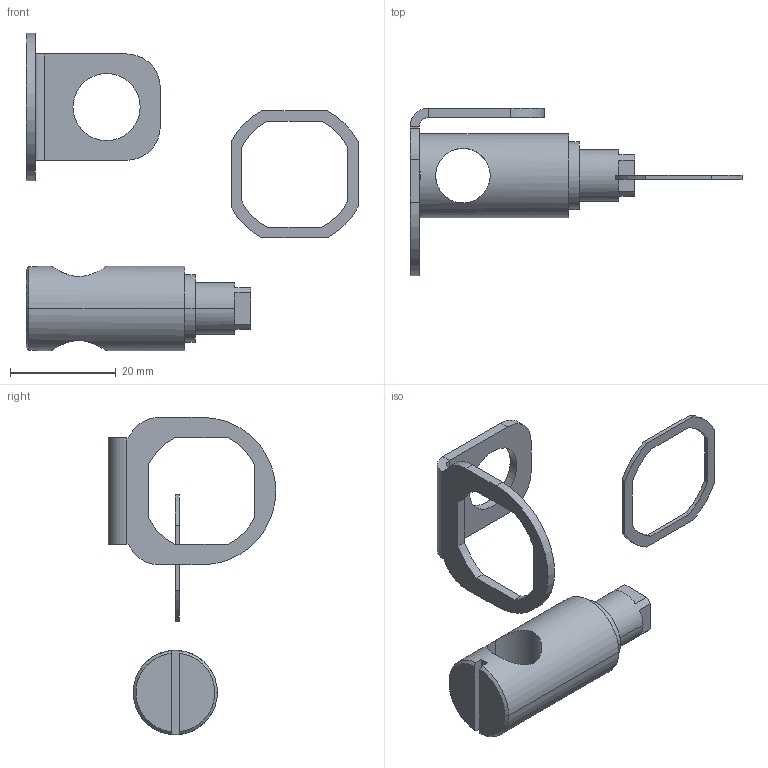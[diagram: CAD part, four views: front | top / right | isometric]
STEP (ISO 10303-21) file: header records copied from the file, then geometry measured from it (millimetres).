
FILE_DESCRIPTION (( 'STEP AP203' ), '1' );
FILE_NAME ('wslpl.STEP', '2020-02-05T14:12:56', ( '' ), ( '' ), 'SwSTEP 2.0', 'SolidWorks 2016', '' );
FILE_SCHEMA (( 'CONFIG_CONTROL_DESIGN' ));
Length unit declared in the file: inch
Products named in the file (4): 87579974; 87579976; 31122001_31122001; wslpl
Assembly tree (3 placements, depth 2):
  wslpl
    87579974
    87579976
    31122001_31122001
Bounding box: 62.8 x 31.72 x 60.01 mm (x, y, z)
Volume: 6721.9 mm3; surface area: 5130.4 mm2
Topology: 3 solids, 3 shells, 78 faces, 198 edges, 129 vertices
Faces by surface type: plane 44, cylinder 31, cone 3
Entity records: 2955 total; most frequent: CARTESIAN_POINT 581, DIRECTION 431, ORIENTED_EDGE 396, EDGE_CURVE 198, AXIS2_PLACEMENT_3D 157, VERTEX_POINT 129, VECTOR 117, LINE 117
